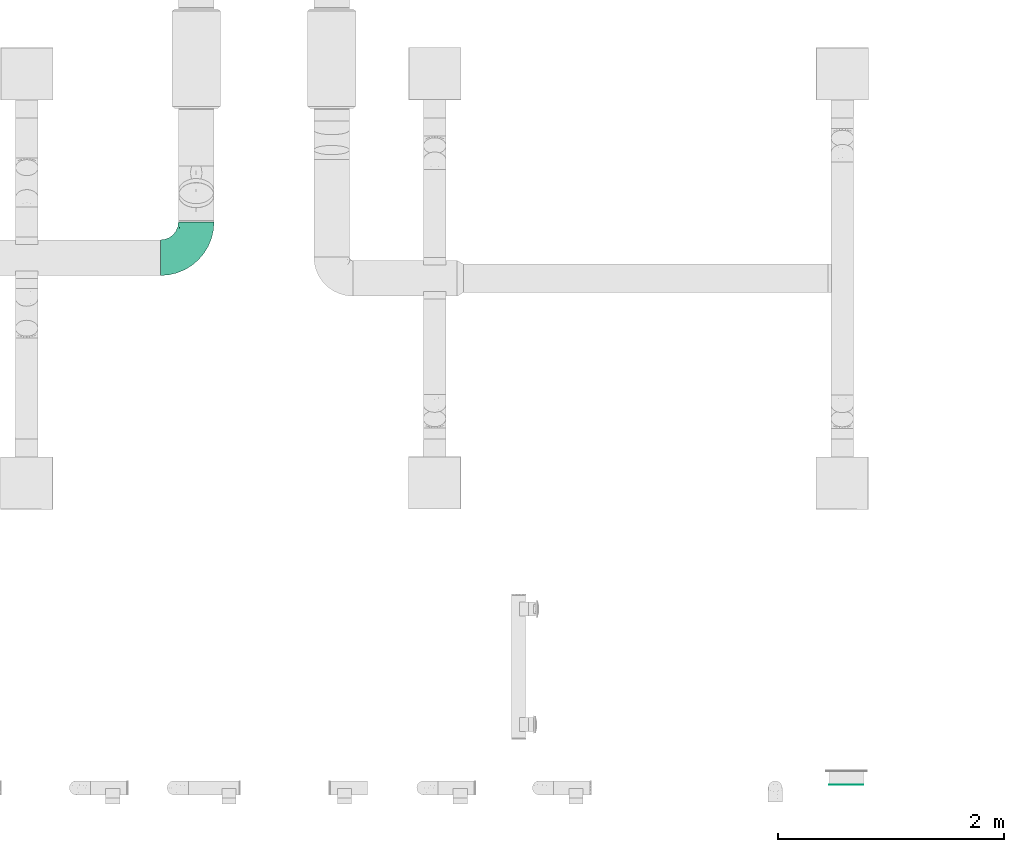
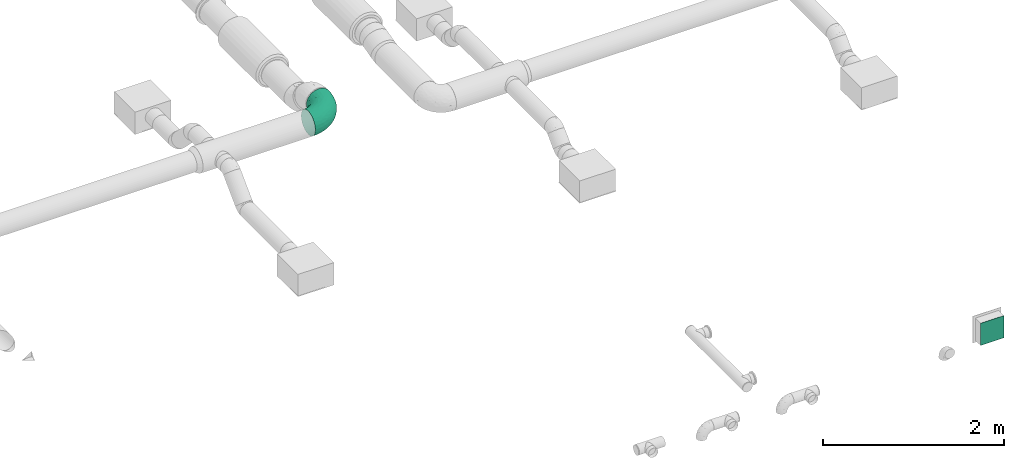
# One storey, part 54 of 63: 2 flow fittings.
"""IFC2X3 building model written with IfcOpenShell, lengths in millimetres."""

import ifcopenshell
import ifcopenshell.guid

model = None  # the IFC model being written
_history = None  # IfcOwnerHistory: only IFC2X3 demands one
_inside = {}  # id of a spatial element -> (the spatial element, [elements in it])
_under = {}  # id of a project, library or spatial element -> (it, [spatial elements below it])
_declared = {}  # id of a project -> (the project, [libraries it declares])
_typed = {}  # id of a type object -> (the type object, [elements of that type])
_made_of = {}  # id of a material, layer set ... -> (it, [elements and type objects made of it])


def new_model(schema):
    """Start an empty IFC model of exactly this schema.

    Asked for "IFC4X3", IfcOpenShell would pick the latest addendum, in which some entities
    have other attributes; the version numbers below select the first issue.
    IFC2X3 requires an IfcOwnerHistory on every rooted entity: one is made here for all.
    """
    global model, _history
    if schema == "IFC4X3":
        model = ifcopenshell.file(schema_version=(4, 3, 0, 0))
    else:
        model = ifcopenshell.file(schema=schema)
    _inside.clear()
    _under.clear()
    _declared.clear()
    _typed.clear()
    _made_of.clear()
    _history = None
    if model.schema == "IFC2X3":
        org = make("IfcOrganization", Name="unknown")
        user = make(
            "IfcPersonAndOrganization",
            ThePerson=make("IfcPerson", FamilyName="unknown"),
            TheOrganization=org,
        )
        app = make(
            "IfcApplication",
            ApplicationDeveloper=org,
            Version="unknown",
            ApplicationFullName="unknown",
            ApplicationIdentifier="unknown",
        )
        _history = make(
            "IfcOwnerHistory",
            OwningUser=user,
            OwningApplication=app,
            ChangeAction="ADDED",
            CreationDate=0,
        )
    return model


def make(cls, **values):
    """One entity of the class cls with the attributes given. An attribute that is None is left unset."""
    return model.create_entity(
        cls, **{name: value for name, value in values.items() if value is not None}
    )


def entity(cls, *values):
    """Any entity or typed value of the class cls, its attributes in the order of the schema. None: left unset."""
    e = model.create_entity(cls)
    for i, value in enumerate(values):
        if value is not None:
            e[i] = value
    return e


def rooted(cls, **values):
    """An entity with a GlobalId (a new one), such as an element, a storey or a relation."""
    return make(cls, GlobalId=ifcopenshell.guid.new(), OwnerHistory=_history, **values)


def si_unit(unit_type, name, prefix=None):
    """IfcSIUnit, for example si_unit("LENGTHUNIT", "METRE", prefix="MILLI")."""
    return make("IfcSIUnit", UnitType=unit_type, Prefix=prefix, Name=name)


def converted_unit(unit_type, name, factor, base, dimensions=None, offset=None):
    """IfcConversionBasedUnit, such as the inch: factor (a typed value) times the base unit."""
    return make(
        "IfcConversionBasedUnit"
        if offset is None
        else "IfcConversionBasedUnitWithOffset",
        ConversionOffset=offset,
        Dimensions=None
        if dimensions is None
        else entity("IfcDimensionalExponents", *dimensions),
        UnitType=unit_type,
        Name=name,
        ConversionFactor=make(
            "IfcMeasureWithUnit", ValueComponent=factor, UnitComponent=base
        ),
    )


def derived_unit(unit_type, elements):
    """IfcDerivedUnit: a product of units, each with its exponent."""
    return make(
        "IfcDerivedUnit",
        Elements=[
            make("IfcDerivedUnitElement", Unit=unit, Exponent=power)
            for unit, power in elements
        ],
        UnitType=unit_type,
    )


def assignment(units):
    """IfcUnitAssignment: the units of a project."""
    return None if units is None else make("IfcUnitAssignment", Units=units)


def point(xyz):
    """IfcCartesianPoint."""
    return None if xyz is None else make("IfcCartesianPoint", Coordinates=xyz)


def direction(xyz):
    """IfcDirection."""
    return None if xyz is None else make("IfcDirection", DirectionRatios=xyz)


def frame(location, z_axis=None, x_axis=None):
    """IfcAxis2Placement3D, a coordinate frame: its origin and axes. An axis left out is left unset."""
    return make(
        "IfcAxis2Placement3D",
        Location=point(location),
        Axis=direction(z_axis),
        RefDirection=direction(x_axis),
    )


def origin_with_axes():
    """The frame at (0, 0, 0) with the z axis (0, 0, 1) and the x axis (1, 0, 0) written out."""
    return frame((0.0, 0.0, 0.0), z_axis=(0.0, 0.0, 1.0), x_axis=(1.0, 0.0, 0.0))


def place(relative_to, where):
    """IfcLocalPlacement: puts the frame where relative to a parent placement (None: the world)."""
    return make(
        "IfcLocalPlacement", PlacementRelTo=relative_to, RelativePlacement=where
    )


def context(
    kind, dimensions, precision=None, world=None, true_north=None, identifier=None
):
    """IfcGeometricRepresentationContext, for example the 3D "Model" context."""
    return make(
        "IfcGeometricRepresentationContext",
        ContextIdentifier=identifier,
        ContextType=kind,
        CoordinateSpaceDimension=dimensions,
        Precision=precision,
        WorldCoordinateSystem=world,
        TrueNorth=true_north,
    )


def subcontext(parent, identifier, kind, view, scale=None):
    """IfcGeometricRepresentationSubContext, for example "Body" below "Model"."""
    return make(
        "IfcGeometricRepresentationSubContext",
        ContextIdentifier=identifier,
        ContextType=kind,
        ParentContext=parent,
        TargetScale=scale,
        TargetView=view,
    )


def project(units=None, contexts=None):
    """IfcProject with its units and contexts."""
    return rooted(
        "IfcProject",
        Name="project",
        RepresentationContexts=contexts,
        UnitsInContext=assignment(units),
    )


def spatial(cls, under=None, at=None, **own):
    """A site, building, storey or space (cls), placed at a placement, below another one or the project."""
    s = rooted(cls, ObjectPlacement=at, **own)
    if under is not None:
        _under.setdefault(under.id(), (under, []))[1].append(s)
    return s


def faces_of(points, faces, orient=None, outer=None):
    """IfcFace entities. A face is a list of loops; a loop is a list of indices into points, from 0.

    orient and outer hold one flag for each loop. By default every Orientation is true, the
    first loop of a face is its IfcFaceOuterBound and the others are IfcFaceBound.
    """
    made = []
    for i, loops in enumerate(faces):
        bounds = []
        for j, loop in enumerate(loops):
            is_outer = j == 0 if outer is None else outer[i][j]
            bounds.append(
                make(
                    "IfcFaceOuterBound" if is_outer else "IfcFaceBound",
                    Bound=make("IfcPolyLoop", Polygon=[points[k] for k in loop]),
                    Orientation=True if orient is None else orient[i][j],
                )
            )
        made.append(make("IfcFace", Bounds=bounds))
    return made


def open_shell(faces, orient=None, outer=None):
    """The faces of one IfcOpenShell. surface_model builds it on its shared points."""
    return ("IfcOpenShell", faces, orient, outer)


def surface_model(cls, points, shells):
    """IfcFaceBasedSurfaceModel or IfcShellBasedSurfaceModel (cls): surfaces that need not close."""
    shared = [point(p) for p in points]
    made = [make(c, CfsFaces=faces_of(shared, fs, o, b)) for c, fs, o, b in shells]
    if cls == "IfcFaceBasedSurfaceModel":
        return make(cls, FbsmFaces=made)
    return make(cls, SbsmBoundary=made)


def shape(context_of_items, identifier, shape_type, items):
    """IfcShapeRepresentation: the items that make up one representation, for example the "Body"."""
    return make(
        "IfcShapeRepresentation",
        ContextOfItems=context_of_items,
        RepresentationIdentifier=identifier,
        RepresentationType=shape_type,
        Items=items,
    )


def source(mapping_origin, context_of_items, identifier, shape_type, items):
    """IfcRepresentationMap: a shape defined once, which mapped items show again and again."""
    return make(
        "IfcRepresentationMap",
        MappingOrigin=mapping_origin,
        MappedRepresentation=shape(context_of_items, identifier, shape_type, items),
    )


def transform(
    local_origin,
    x_axis=None,
    y_axis=None,
    z_axis=None,
    scale=None,
    scale2=None,
    scale3=None,
    uniform=True,
):
    """IfcCartesianTransformationOperator3D, or its non-uniform kind. x_axis, y_axis, z_axis: its Axis1, 2, 3."""
    if uniform:
        return make(
            "IfcCartesianTransformationOperator3D",
            Axis1=direction(x_axis),
            Axis2=direction(y_axis),
            LocalOrigin=point(local_origin),
            Scale=scale,
            Axis3=direction(z_axis),
        )
    return make(
        "IfcCartesianTransformationOperator3DnonUniform",
        Axis1=direction(x_axis),
        Axis2=direction(y_axis),
        LocalOrigin=point(local_origin),
        Scale=scale,
        Axis3=direction(z_axis),
        Scale2=scale2,
        Scale3=scale3,
    )


def mapped(mapping_source, mapping_target):
    """IfcMappedItem: shows the shape of a source again, moved by a transform."""
    return make(
        "IfcMappedItem", MappingSource=mapping_source, MappingTarget=mapping_target
    )


def made_of(thing, what):
    """Note that an element or type object is made of a material, layer set ...; save() writes the relation."""
    if what is not None:
        _made_of.setdefault(what.id(), (what, []))[1].append(thing)
    return thing


def type_object(cls, material=None, **own):
    """A type object (cls), such as IfcWallType, which elements share."""
    return made_of(rooted(cls, **own), material)


def element(
    cls,
    number,
    at=None,
    inside=None,
    cuts=None,
    type_object=None,
    material=None,
    context=None,
    identifier="Body",
    shape_type=None,
    held_by="IfcProductDefinitionShape",
    body=None,
    shapes=None,
    **own,
):
    """One element of the class cls, such as IfcWall. Its Tag is "e" and its number.

    at: its placement. inside: the storey or other place that contains it. cuts: it is an
    opening in that element (IfcRelVoidsElement). A single representation is given by context,
    identifier, shape_type and body (its items); several are given by shapes. held_by: the class
    of the entity that holds the representations. save() writes the other relations.
    """
    e = rooted(cls, Tag="e%d" % number, ObjectPlacement=at, **own)
    if body is not None:
        shapes = [shape(context, identifier, shape_type, body)]
    if shapes is not None:
        e.Representation = make(held_by, Representations=shapes)
    if inside is not None:
        _inside.setdefault(inside.id(), (inside, []))[1].append(e)
    if cuts is not None:
        rooted(
            "IfcRelVoidsElement", RelatingBuildingElement=cuts, RelatedOpeningElement=e
        )
    if type_object is not None:
        _typed.setdefault(type_object.id(), (type_object, []))[1].append(e)
    return made_of(e, material)


def aggregate(whole, parts):
    """IfcRelAggregates: a whole, such as a stair, and the parts it consists of."""
    return rooted("IfcRelAggregates", RelatingObject=whole, RelatedObjects=parts)


def save(model, path):
    """Write the relations noted so far, then the file.

    IfcRelAggregates (storeys below a building ...), IfcRelContainedInSpatialStructure (elements
    in a storey), IfcRelDefinesByType, IfcRelAssociatesMaterial and IfcRelDeclares: one each for
    every whole, place, type object, material and project.
    """
    for whole, parts in _under.values():
        aggregate(whole, parts)
    for where, things in _inside.values():
        rooted(
            "IfcRelContainedInSpatialStructure",
            RelatedElements=things,
            RelatingStructure=where,
        )
    for kind, things in _typed.values():
        rooted("IfcRelDefinesByType", RelatedObjects=things, RelatingType=kind)
    for what, things in _made_of.values():
        rooted("IfcRelAssociatesMaterial", RelatedObjects=things, RelatingMaterial=what)
    for by, libraries in _declared.values():
        rooted("IfcRelDeclares", RelatingContext=by, RelatedDefinitions=libraries)
    model.write(path)


model = new_model("IFC2X3")

# Units and contexts
model_context = context("Model", 3, precision=0.01, world=frame((0.0, 4.29681676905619e-09, 0.0)), true_north=direction((4.01073788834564e-13, 1.0)))
plan_context = context("Plan", 3, precision=0.01, world=frame((0.0, 4.29681676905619e-09, 0.0)), true_north=direction((4.01073788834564e-13, 1.0)))
body_context = subcontext(model_context, "Body", "Model", "MODEL_VIEW")
ifc_project = project(units=[converted_unit("PLANEANGLEUNIT", "DEGREE", entity("IfcPositiveLengthMeasure", 0.0174532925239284), si_unit("PLANEANGLEUNIT", "RADIAN"), dimensions=[0, 0, 0, 0, 0, 0, 0]), si_unit("AREAUNIT", "SQUARE_METRE"), si_unit("LENGTHUNIT", "METRE", prefix="MILLI"), si_unit("MASSUNIT", "GRAM", prefix="KILO"), si_unit("POWERUNIT", "WATT"), si_unit("PRESSUREUNIT", "PASCAL"), si_unit("FORCEUNIT", "NEWTON", prefix="KILO"), si_unit("ELECTRICVOLTAGEUNIT", "VOLT"), si_unit("ELECTRICCURRENTUNIT", "AMPERE"), si_unit("THERMODYNAMICTEMPERATUREUNIT", "DEGREE_CELSIUS"), si_unit("TIMEUNIT", "SECOND"), si_unit("VOLUMEUNIT", "CUBIC_METRE"), derived_unit("LINEARVELOCITYUNIT", [(si_unit("LENGTHUNIT", "METRE"), 1), (si_unit("TIMEUNIT", "SECOND"), -1)]), derived_unit("VOLUMETRICFLOWRATEUNIT", [(si_unit("VOLUMEUNIT", "CUBIC_METRE"), 1), (si_unit("TIMEUNIT", "SECOND"), -1)]), derived_unit("THERMALTRANSMITTANCEUNIT", [(si_unit("POWERUNIT", "WATT"), 1), (si_unit("THERMODYNAMICTEMPERATUREUNIT", "KELVIN"), -1), (si_unit("AREAUNIT", "SQUARE_METRE"), -1)]), derived_unit("SOUNDPRESSUREUNIT", [(si_unit("PRESSUREUNIT", "PASCAL"), 1)])], contexts=[model_context, plan_context])

# Site, building, storey
site_placement = place(None, frame((0.0, -4.29681676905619e-09, 0.0), z_axis=(0.0, 0.0, 1.0), x_axis=(1.0, 0.0, 0.0)))
site = spatial("IfcSite", under=ifc_project, at=site_placement, CompositionType="ELEMENT")
building_placement = place(site_placement, frame((0.0, 4.29681676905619e-09, 0.0), z_axis=(0.0, 0.0, 1.0), x_axis=(1.0, 0.0, 0.0)))
building = spatial("IfcBuilding", under=site, at=building_placement, Name="mc-building", CompositionType="ELEMENT")
storey_placement = place(building_placement, frame((0.0, 0.0, 210900.0), z_axis=(0.0, 0.0, 1.0), x_axis=(1.0, 0.0, 0.0)))
storey = spatial("IfcBuildingStorey", under=building, at=storey_placement, Name="Nivå F", CompositionType="ELEMENT", Elevation=210900.0)

# Flow fittings
duct_fitting_type_1 = type_object("IfcDuctFittingType", Name="LEPR", PredefinedType="OBSTRUCTION")
shared_shape_1 = source(origin_with_axes(), body_context, "Body", "SurfaceModel", [
    surface_model("IfcShellBasedSurfaceModel", [(0.0, 150.0, 150.0), (0.0, 150.0, -150.0), (0.0, -150.0, -150.0), (0.0, -150.0, 150.0), (0.8, -150.0, -150.0), (0.8, 150.0, -150.0), (0.8, 150.0, 150.0), (0.8, -150.0, 150.0)], [open_shell([[[0, 1, 2]], [[2, 3, 0]], [[4, 5, 6]], [[6, 7, 4]], [[1, 0, 6]], [[6, 5, 1]], [[2, 1, 5]], [[5, 4, 2]], [[3, 2, 4]], [[4, 7, 3]], [[0, 3, 7]], [[7, 6, 0]]])]),
])
flow_fitting_1_placement = place(storey_placement, frame((534141.14447, 440919.96689, 2163.0), z_axis=(0.0, 0.0, 1.0), x_axis=(0.0, -1.0, 0.0)))
element("IfcFlowFitting", 1, at=flow_fitting_1_placement, inside=storey, type_object=duct_fitting_type_1, Name="LEPR", context=body_context, shape_type="MappedRepresentation", body=[
    mapped(shared_shape_1, transform((0.0, 0.0, 0.0), scale=1.0)),
])
duct_fitting_type_2 = type_object("IfcDuctFittingType", Name="magicirc_elbow_full_radius_001", PredefinedType="BEND")
shared_shape_2 = source(origin_with_axes(), body_context, "Body", "SurfaceModel", [
    surface_model("IfcShellBasedSurfaceModel", [(-314.99563, 78.75, -136.39901), (-314.99563, 40.764, -152.13332), (-314.99563, 0.0, -157.5), (-314.99563, 136.39901, -78.75), (-314.99563, -40.764, -152.13332), (-314.99563, 111.36932, -111.36932), (-314.99563, -157.5, 0.0), (-314.99563, -152.13332, 40.764), (-314.99563, -111.36932, -111.36932), (-314.99563, -152.13332, -40.764), (-314.99563, -78.75, -136.39901), (-314.99563, -136.39901, -78.75), (-314.99563, 152.13332, -40.764), (-314.99563, 152.13332, 40.764), (-314.99563, 157.5, 0.0), (-314.99563, 111.36932, 111.36932), (-314.99563, 136.39901, 78.75), (-314.99563, 78.75, 136.39901), (-314.99563, 40.764, 152.13332), (-314.99563, -111.36932, 111.36932), (-314.99563, -78.75, 136.39901), (-314.99563, -136.39901, 78.75), (-314.99563, 0.0, 157.5), (-314.99563, -40.764, 152.13332), (0.00438, 314.99563, -157.5), (-40.75962, 314.99618, -152.13332), (-78.74562, 314.99672, -136.39901), (78.75438, 314.99451, -136.39901), (-136.39462, 314.99752, -78.75), (-111.36493, 314.99716, -111.36932), (78.75438, 314.99451, 136.39901), (136.40338, 314.99371, -78.75), (111.3737, 314.99407, -111.36932), (40.76838, 314.99505, -152.13332), (152.1377, 314.99349, -40.764), (152.1377, 314.99349, 40.764), (157.50438, 314.99342, 0.0), (-152.12893, 314.99774, -40.764), (-157.49562, 314.99782, 0.0), (-152.12893, 314.99774, 40.764), (-136.39462, 314.99752, 78.75), (-111.36493, 314.99716, 111.36932), (-78.74562, 314.99672, 136.39901), (0.00438, 314.99563, 157.5), (-40.75962, 314.99618, 152.13332), (136.40338, 314.99371, 78.75), (111.3737, 314.99407, 111.36932), (40.76838, 314.99505, 152.13332), (-275.78233, -154.41387, 0.0), (-241.08098, -151.68285, 0.0), (-252.44546, -146.30355, 46.35177), (-187.41171, 212.23378, 44.1848), (-179.00813, 203.81647, 73.40966), (-160.11386, 234.11998, 71.62446), (-259.10337, -29.2916, 153.83071), (-244.91312, 10.98611, 157.47118), (-224.66694, -127.46544, 78.41554), (-275.62044, -128.51881, 88.53103), (-239.5808, -68.78702, 137.88046), (-254.44515, -102.1727, 115.994), (-204.97059, -89.72219, 117.91777), (-198.20126, -136.56001, 43.33951), (-148.93786, -119.38309, 47.89275), (-158.86409, -110.34395, 75.73764), (39.78896, 15.52692, 50.21588), (50.02589, 48.94828, 78.24311), (16.56828, 9.91774, 80.17533), (-156.73513, -92.787, 99.09335), (-102.51115, -78.92364, 85.02644), (-126.30359, -72.3811, 106.65392), (-238.05391, 163.98714, 60.26122), (-237.19628, 147.20553, 88.84877), (-203.90143, 171.05845, 84.09055), (-99.39287, -101.96312, 31.06085), (-68.87804, -86.63178, 0.0), (-64.7561, -82.94568, 27.47128), (-194.76046, -28.32928, 149.75765), (24.59647, -9.69228, 28.8341), (43.1863, 9.079, 0.0), (-28.14284, 147.05471, 156.53585), (-57.61978, 187.51977, 155.03014), (-72.60649, 106.84282, 157.43563), (-100.48686, -106.00148, 0.0), (-134.7366, -120.18804, 0.0), (-260.03918, 89.83532, 133.71514), (-237.2656, 125.02181, 112.97987), (-280.20779, 121.62899, 103.72148), (68.22275, 256.18487, 139.71457), (77.7747, 189.03714, 123.71331), (102.3214, 243.41465, 114.24986), (67.84636, 49.60643, 45.33454), (67.26259, 37.26828, 0.0), (90.55473, 77.98579, 29.40573), (-274.83279, 157.26135, 40.40681), (-274.66734, 145.30131, 71.02721), (-245.58014, 170.09692, 31.44898), (-158.00722, 282.5734, 29.5785), (-146.24753, 266.66926, 73.17896), (-201.20749, 99.95038, 140.23238), (-167.99712, 243.85419, 42.38531), (-236.24624, 178.60064, 0.0), (-214.35748, 188.34408, 36.4284), (-203.62707, 203.6299, 0.0), (-162.86277, 274.23424, 0.0), (-27.47562, -1.48475, 110.13853), (-51.95992, -33.03115, 100.52291), (-24.9943, -31.3227, 78.21223), (112.08976, 138.61476, 56.34781), (125.16464, 203.63833, 74.00772), (104.10219, 190.15963, 99.24642), (-263.8824, 52.4619, 150.15626), (6.28169, -18.0264, 54.58916), (-32.47606, -55.63937, 44.65376), (-205.03367, -143.02872, 0.0), (-151.50541, 215.66251, 97.49564), (-169.72027, 180.80581, 105.18269), (-137.79676, 192.65699, 121.95184), (-131.15677, 105.9116, 153.1919), (-137.51805, 135.51369, 144.53179), (-172.83467, 124.27249, 137.32697), (128.84852, 263.56769, 86.20483), (114.57882, 123.92499, 27.0886), (106.00288, 100.48539, 0.0), (131.76126, 176.4746, 38.42717), (143.03158, 205.03167, 0.0), (146.29989, 252.33171, 46.32604), (28.40514, 269.10054, 154.3271), (154.41772, 275.78019, 0.0), (-22.22204, 41.6886, 132.26014), (16.69612, 39.94144, 106.64404), (16.3236, 90.96451, 132.62288), (-52.02862, 254.37626, 150.89414), (153.89386, 314.99349, 27.42463), (53.20954, 125.90917, 122.55993), (88.9289, 138.614, 94.82267), (-274.23197, 162.86658, 0.0), (-178.59735, 236.24873, 0.0), (-168.81074, 14.50655, 156.32961), (-134.5812, -17.78299, 144.11347), (-96.05813, 24.61844, 149.79181), (-95.47704, 208.90642, 140.4938), (-78.66664, 72.23275, 155.69097), (-107.1022, 82.90157, 157.46312), (-89.91106, 266.26291, 132.78652), (-121.59915, 277.7357, 104.26581), (-11.77736, 260.70269, 157.34621), (-227.60144, 69.76338, 147.71228), (-195.76169, -66.84684, 132.57528), (-17.98734, 203.53736, 157.48414), (-60.53701, -60.45396, 74.88611), (-91.07062, -51.75683, 107.92245), (-197.57355, -110.08577, 94.49266), (-125.80686, 232.97065, 113.88708), (64.56688, 93.01054, 96.19285), (16.8365, 141.99468, 145.94109), (-22.72285, 90.9272, 148.21345), (-99.35187, 153.78898, 150.7065), (57.70169, 213.44689, 140.44451), (29.76674, 212.9311, 151.06681), (41.25791, 174.00604, 141.99739), (81.24605, 84.85904, 65.51466), (-80.64312, -84.21289, 54.10036), (-119.42605, -101.753, 60.63808), (-223.54222, 37.74256, 155.80435), (-168.22004, 88.17607, 150.98535), (-187.51897, 57.62239, 155.03014), (-196.72415, 148.24739, 112.17004), (-145.12494, 64.74935, 156.99992), (-62.10374, 49.4574, 148.77366), (-78.28995, 3.48969, 137.81802), (120.18992, 134.73493, 0.0), (134.37696, 168.98447, 0.0), (-124.06774, 168.52589, 138.84163), (0.03826, 171.9576, 154.42155), (-155.23905, 155.24121, 129.8963), (-73.90251, -22.7781, 121.68595), (-153.67303, -57.07327, 128.87428), (-113.78272, -39.32073, 127.49902), (-115.01563, 47.08459, 156.31041), (86.63274, 68.87683, 0.0), (-9.0796, -43.18618, 0.0), (19.11001, -19.11028, 0.0), (-168.98634, -134.37461, 0.0), (-37.26921, -67.26207, 0.0), (-314.99563, -153.88948, 27.42463), (151.6862, 241.07887, 0.0), (-255.73107, 122.56566, -109.04468), (-214.2899, 93.8024, -140.10166), (-163.83922, 105.49851, -146.9551), (-183.82434, 59.98903, -154.94923), (-192.31595, 130.25654, -126.94011), (-214.66702, 186.05777, -42.62167), (-186.74174, 194.75813, -73.69407), (-239.00213, 164.73409, -57.54531), (84.54013, 80.13498, -52.60618), (-261.00529, 11.80373, -157.34285), (-250.438, -29.83387, -153.37154), (-268.19408, 89.96997, -132.49506), (18.83989, 119.2131, -140.07303), (49.91416, 115.17303, -120.81805), (12.07164, 71.63181, -127.34639), (-248.07588, 169.79981, -27.2722), (-275.80359, 156.39385, -42.62167), (-145.80861, -120.76254, -39.5478), (-91.06364, -97.14686, -32.77151), (29.83736, 250.43758, -153.37154), (-188.18922, 214.15183, -37.45822), (-263.66261, 144.09274, -78.48772), (-189.95276, 165.06371, -102.28653), (43.89571, 65.87633, -99.75525), (78.16526, 108.20788, -90.0355), (-249.48977, 51.93139, -151.25867), (-314.99563, -153.88948, -27.42463), (-247.57064, -102.29902, -114.91122), (-172.13179, -94.47147, -103.54558), (-203.64006, -125.16181, -74.00772), (-15.43648, -39.86437, -49.86826), (-49.56264, -70.6022, -36.8524), (-48.59708, -58.52164, -64.27448), (-252.33374, -146.29638, -46.32604), (-150.41972, 203.44618, -106.34148), (-263.56947, -128.84486, -86.20483), (-270.62703, -67.1349, -141.23695), (-215.38611, -68.32674, -135.04056), (-196.40251, -137.78019, -37.15951), (102.30247, 247.56923, -114.91122), (-84.30666, -81.65752, -64.10849), (94.47386, 172.13048, -103.54558), (68.32973, 215.38515, -135.04056), (-163.28638, 237.20186, -62.64422), (-225.79151, 144.12078, -99.31795), (-157.79457, 273.70769, -39.50062), (-170.19613, 243.41701, -35.38825), (128.36072, 166.2441, -38.79849), (111.3317, 119.83631, -33.59621), (107.99667, 139.72882, -66.29618), (-159.64047, 170.07794, -119.54503), (-180.81416, -30.01584, -147.5138), (-145.2506, 275.1525, -70.89758), (-89.88131, 264.92242, -132.98784), (-44.17066, 280.5907, -151.79733), (-59.75262, 314.99643, -144.26616), (9.31208, -25.05964, -28.44177), (53.01321, 25.90817, -37.46461), (-11.80009, 261.00545, -157.34285), (67.13867, 270.6261, -141.23695), (-92.62424, 92.62551, -157.49914), (-118.9588, 121.25657, -152.49769), (-64.39249, 156.50896, -156.41153), (-60.18181, 62.85585, -151.37992), (-107.20433, 12.13773, -148.5661), (-115.08271, 49.6144, -156.55175), (128.84853, 263.56769, -86.20483), (142.02372, 205.04599, -27.61515), (29.82185, 180.39934, -147.52601), (-13.41235, 195.22173, -157.21331), (146.29989, 252.33169, -46.32604), (-37.40663, -4.78447, -114.20524), (-6.41603, -12.60773, -81.03574), (-50.98413, -38.43212, -94.29511), (-120.9295, -103.51232, -58.2865), (-96.40741, 201.2145, -141.7902), (-123.08827, 250.64858, -110.13441), (-121.88939, 288.06438, -101.98249), (-63.34854, 202.24298, -152.53202), (-222.0809, -6.89847, -156.21988), (125.16464, 203.63832, -74.00772), (-51.90723, 246.85321, -151.45133), (-161.36639, -115.89725, -67.15598), (61.05571, 59.83023, -73.20871), (-114.28419, -21.13509, -137.67379), (-72.08772, 0.21751, -134.09749), (2.17308, 150.0993, -151.66457), (-117.4034, -78.70983, -95.14824), (15.79979, -8.50111, -54.7268), (67.75221, 163.86129, -124.46872), (-163.86224, -67.74993, -124.46872), (-128.02284, 185.93754, -130.7513), (-108.32077, 160.67213, -146.79947), (-225.7225, 27.09606, -156.91408), (-54.59372, 105.67693, -156.33713), (-32.5658, 145.0808, -156.82142), (-145.37694, -8.42181, -149.28515), (-136.98146, 81.16528, -156.07805), (-156.30963, 39.79975, -157.47731), (-31.52295, 31.52338, -132.01713), (-143.53651, 148.20866, -138.06124), (-187.31462, 14.48758, -157.07871), (-19.17394, 108.97108, -150.7854), (2.87484, 23.194, -105.99041), (32.99987, 23.19193, -73.77906), (-74.46747, -30.27662, -116.67623), (-115.17373, -49.91256, -120.81805), (153.89386, 314.99349, -27.42463)], [open_shell([[[0, 1, 2]], [[3, 0, 2]], [[4, 3, 2]], [[5, 0, 3]], [[3, 6, 7]], [[8, 9, 10]], [[4, 10, 6]], [[11, 9, 8]], [[6, 10, 9]], [[6, 3, 4]], [[7, 12, 3]], [[13, 14, 15]], [[16, 13, 15]], [[17, 15, 7]], [[7, 15, 14]], [[17, 7, 18]], [[19, 20, 21]], [[7, 21, 22]], [[23, 22, 20]], [[21, 20, 22]], [[22, 18, 7]], [[12, 7, 14]], [[24, 25, 26]], [[27, 24, 26]], [[27, 26, 28]], [[28, 26, 29]], [[27, 28, 30]], [[27, 31, 32]], [[27, 33, 24]], [[27, 34, 31]], [[34, 27, 30]], [[35, 36, 34]], [[28, 37, 38]], [[38, 39, 40]], [[38, 40, 41]], [[38, 42, 30]], [[42, 38, 41]], [[43, 42, 44]], [[45, 30, 46]], [[35, 34, 45]], [[30, 43, 47]], [[34, 30, 45]], [[42, 43, 30]], [[28, 38, 30]], [[48, 49, 50]], [[51, 52, 53]], [[22, 54, 55]], [[56, 57, 50]], [[58, 59, 60]], [[23, 20, 58]], [[61, 62, 63]], [[64, 65, 66]], [[67, 68, 69]], [[70, 71, 72]], [[20, 59, 58]], [[73, 74, 75]], [[76, 54, 58]], [[64, 77, 78]], [[79, 80, 81]], [[50, 61, 56]], [[82, 73, 83]], [[84, 85, 86]], [[87, 88, 89]], [[22, 55, 18]], [[90, 91, 92]], [[93, 94, 70]], [[70, 95, 93]], [[96, 97, 39]], [[85, 84, 98]], [[99, 51, 53]], [[71, 70, 94]], [[100, 101, 102]], [[96, 103, 99]], [[14, 13, 93]], [[94, 93, 13]], [[64, 90, 65]], [[104, 105, 106]], [[107, 108, 109]], [[17, 110, 84]], [[111, 106, 112]], [[113, 50, 49]], [[20, 19, 59]], [[114, 115, 116]], [[117, 118, 119]], [[89, 30, 87]], [[19, 21, 57]], [[120, 89, 108]], [[121, 92, 122]], [[123, 124, 125]], [[43, 126, 47]], [[125, 127, 35]], [[16, 15, 86]], [[128, 129, 130]], [[120, 45, 46]], [[45, 125, 35]], [[123, 108, 107]], [[44, 42, 131]], [[127, 36, 132]], [[133, 134, 88]], [[93, 95, 135]], [[21, 7, 50]], [[99, 103, 136]], [[137, 138, 139]], [[102, 101, 51]], [[103, 96, 38]], [[140, 80, 131]], [[72, 101, 70]], [[51, 136, 102]], [[141, 81, 142]], [[131, 143, 140]], [[39, 97, 40]], [[41, 40, 144]], [[89, 46, 30]], [[145, 44, 131]], [[16, 94, 13]], [[42, 143, 131]], [[145, 43, 44]], [[15, 17, 84]], [[137, 55, 76]], [[23, 54, 22]], [[146, 84, 110]], [[58, 60, 147]], [[30, 47, 87]], [[88, 134, 109]], [[42, 41, 143]], [[80, 79, 148]], [[149, 150, 68]], [[67, 151, 63]], [[17, 18, 110]], [[84, 146, 98]], [[120, 125, 45]], [[125, 108, 123]], [[50, 7, 48]], [[50, 113, 61]], [[53, 52, 114]], [[144, 97, 152]], [[153, 129, 65]], [[111, 64, 66]], [[57, 59, 19]], [[60, 151, 67]], [[130, 133, 154]], [[129, 128, 104]], [[155, 154, 79]], [[156, 81, 80]], [[126, 87, 47]], [[157, 158, 159]], [[157, 88, 87]], [[160, 153, 65]], [[58, 54, 23]], [[55, 54, 76]], [[161, 162, 73]], [[162, 67, 63]], [[144, 143, 41]], [[143, 152, 140]], [[148, 131, 80]], [[126, 145, 158]], [[18, 55, 110]], [[163, 110, 55]], [[164, 98, 165]], [[98, 119, 166]], [[167, 117, 164]], [[140, 156, 80]], [[138, 137, 76]], [[168, 169, 128]], [[107, 134, 160]], [[89, 109, 108]], [[121, 123, 107]], [[170, 171, 123]], [[89, 120, 46]], [[125, 120, 108]], [[86, 94, 16]], [[94, 86, 71]], [[145, 126, 43]], [[126, 158, 157]], [[116, 140, 152]], [[118, 156, 172]], [[140, 116, 172]], [[81, 156, 117]], [[117, 167, 142]], [[81, 155, 79]], [[155, 130, 154]], [[148, 158, 145]], [[159, 88, 157]], [[173, 158, 148]], [[148, 79, 173]], [[131, 148, 145]], [[95, 70, 101]], [[14, 93, 135]], [[101, 100, 95]], [[135, 95, 100]], [[97, 144, 40]], [[143, 144, 152]], [[166, 71, 85]], [[71, 166, 72]], [[98, 166, 85]], [[166, 115, 72]], [[115, 166, 174]], [[101, 72, 52]], [[116, 115, 174]], [[52, 72, 115]], [[116, 174, 172]], [[114, 116, 152]], [[97, 114, 152]], [[52, 115, 114]], [[118, 172, 174]], [[140, 172, 156]], [[119, 118, 174]], [[156, 118, 117]], [[166, 119, 174]], [[119, 98, 164]], [[128, 130, 155]], [[153, 130, 129]], [[168, 128, 155]], [[104, 106, 66]], [[128, 169, 104]], [[162, 68, 67]], [[175, 150, 105]], [[176, 138, 76]], [[141, 155, 81]], [[139, 169, 168]], [[176, 69, 177]], [[147, 76, 58]], [[177, 150, 175]], [[138, 169, 139]], [[167, 137, 178]], [[137, 165, 163]], [[121, 122, 170]], [[126, 157, 87]], [[92, 121, 107]], [[123, 121, 170]], [[92, 107, 160]], [[90, 92, 160]], [[92, 91, 179]], [[65, 90, 160]], [[114, 97, 53]], [[160, 134, 153]], [[66, 65, 129]], [[134, 133, 153]], [[153, 133, 130]], [[104, 66, 129]], [[111, 66, 106]], [[149, 112, 106]], [[77, 64, 111]], [[161, 73, 75]], [[180, 181, 77]], [[77, 111, 112]], [[91, 90, 78]], [[77, 181, 78]], [[90, 64, 78]], [[97, 99, 53]], [[84, 86, 15]], [[86, 85, 71]], [[62, 61, 182]], [[151, 59, 56]], [[176, 60, 67]], [[59, 151, 60]], [[56, 61, 63]], [[56, 63, 151]], [[162, 63, 62]], [[62, 182, 83]], [[162, 161, 68]], [[149, 68, 161]], [[68, 150, 69]], [[62, 73, 162]], [[73, 82, 74]], [[183, 112, 75]], [[112, 149, 161]], [[149, 106, 105]], [[183, 75, 74]], [[112, 161, 75]], [[177, 69, 150]], [[176, 67, 69]], [[60, 176, 147]], [[76, 147, 176]], [[7, 184, 48]], [[184, 6, 48]], [[127, 125, 185]], [[127, 132, 35]], [[97, 96, 99]], [[38, 96, 39]], [[50, 57, 21]], [[59, 57, 56]], [[136, 51, 99]], [[101, 52, 51]], [[124, 123, 171]], [[124, 185, 125]], [[158, 173, 159]], [[154, 133, 159]], [[88, 159, 133]], [[83, 73, 62]], [[137, 163, 55]], [[146, 163, 165]], [[163, 146, 110]], [[98, 146, 165]], [[167, 164, 165]], [[119, 164, 117]], [[137, 167, 165]], [[167, 178, 142]], [[178, 139, 141]], [[117, 142, 81]], [[178, 141, 142]], [[155, 141, 168]], [[88, 109, 89]], [[107, 109, 134]], [[79, 154, 173]], [[173, 154, 159]], [[175, 104, 169]], [[149, 105, 150]], [[104, 175, 105]], [[177, 169, 138]], [[169, 177, 175]], [[138, 176, 177]], [[141, 139, 168]], [[139, 178, 137]], [[112, 180, 77]], [[179, 122, 92]], [[112, 183, 180]], [[113, 182, 61]], [[186, 5, 3]], [[187, 188, 189]], [[188, 187, 190]], [[191, 192, 193]], [[91, 194, 179]], [[2, 195, 196]], [[0, 5, 197]], [[198, 199, 200]], [[201, 202, 135]], [[82, 203, 204]], [[100, 201, 135]], [[33, 205, 24]], [[191, 102, 206]], [[12, 202, 207]], [[192, 208, 193]], [[209, 199, 210]], [[0, 211, 1]], [[197, 186, 187]], [[9, 48, 212]], [[213, 214, 215]], [[48, 6, 212]], [[216, 217, 218]], [[9, 11, 219]], [[192, 220, 208]], [[8, 221, 11]], [[191, 193, 201]], [[222, 196, 223]], [[10, 4, 222]], [[10, 222, 213]], [[113, 219, 224]], [[203, 182, 224]], [[27, 32, 225]], [[226, 217, 204]], [[8, 10, 213]], [[227, 228, 225]], [[229, 220, 192]], [[136, 206, 102]], [[186, 230, 190]], [[231, 229, 232]], [[233, 234, 235]], [[38, 37, 231]], [[208, 220, 236]], [[237, 223, 196]], [[238, 231, 37]], [[4, 2, 196]], [[239, 26, 240]], [[29, 26, 239]], [[232, 103, 231]], [[240, 241, 25]], [[78, 242, 243]], [[211, 0, 197]], [[24, 244, 25]], [[238, 37, 28]], [[24, 205, 244]], [[33, 245, 205]], [[180, 216, 242]], [[246, 247, 248]], [[14, 135, 202]], [[228, 245, 225]], [[234, 179, 194]], [[234, 194, 235]], [[249, 250, 251]], [[31, 252, 32]], [[33, 27, 245]], [[233, 253, 171]], [[205, 254, 255]], [[127, 185, 256]], [[34, 127, 256]], [[238, 229, 231]], [[230, 186, 207]], [[257, 258, 259]], [[31, 34, 256]], [[204, 260, 226]], [[204, 74, 82]], [[239, 261, 262]], [[263, 28, 29]], [[12, 207, 3]], [[264, 255, 248]], [[189, 211, 187]], [[265, 196, 195]], [[252, 225, 32]], [[227, 225, 266]], [[254, 205, 228]], [[244, 255, 267]], [[2, 1, 195]], [[196, 265, 237]], [[214, 213, 223]], [[221, 213, 215]], [[221, 219, 11]], [[268, 224, 215]], [[253, 185, 124]], [[252, 256, 266]], [[269, 210, 194]], [[227, 235, 210]], [[270, 250, 271]], [[198, 272, 254]], [[226, 273, 259]], [[274, 216, 258]], [[239, 267, 264]], [[263, 239, 262]], [[235, 227, 266]], [[275, 228, 227]], [[223, 276, 214]], [[214, 276, 273]], [[100, 102, 191]], [[202, 201, 193]], [[191, 201, 100]], [[191, 206, 192]], [[206, 229, 192]], [[229, 238, 220]], [[261, 277, 262]], [[277, 261, 278]], [[248, 247, 278]], [[190, 187, 186]], [[202, 193, 207]], [[14, 202, 12]], [[230, 193, 208]], [[3, 207, 186]], [[255, 244, 205]], [[26, 241, 240]], [[1, 211, 195]], [[279, 195, 211]], [[186, 197, 5]], [[211, 197, 187]], [[275, 254, 228]], [[199, 209, 200]], [[246, 249, 251]], [[280, 248, 281]], [[270, 282, 250]], [[237, 270, 276]], [[283, 251, 284]], [[285, 257, 271]], [[193, 230, 207]], [[230, 208, 190]], [[236, 190, 208]], [[188, 190, 286]], [[286, 247, 188]], [[284, 287, 189]], [[283, 188, 247]], [[189, 287, 279]], [[278, 247, 286]], [[283, 247, 246]], [[248, 278, 264]], [[255, 272, 281]], [[251, 283, 246]], [[189, 188, 283]], [[280, 249, 246]], [[250, 282, 284]], [[288, 285, 249]], [[249, 285, 271]], [[213, 221, 8]], [[219, 221, 215]], [[256, 252, 31]], [[225, 252, 266]], [[250, 249, 271]], [[285, 200, 289]], [[263, 238, 28]], [[220, 238, 262]], [[235, 266, 233]], [[210, 235, 194]], [[209, 269, 290]], [[210, 199, 275]], [[289, 209, 290]], [[209, 289, 200]], [[258, 289, 290]], [[257, 285, 289]], [[285, 288, 200]], [[198, 200, 288]], [[274, 258, 290]], [[218, 258, 216]], [[232, 229, 206]], [[38, 231, 103]], [[253, 266, 256]], [[233, 170, 234]], [[272, 198, 288]], [[275, 198, 254]], [[281, 272, 288]], [[255, 254, 272]], [[280, 281, 288]], [[255, 281, 248]], [[249, 280, 288]], [[248, 280, 246]], [[203, 268, 260]], [[74, 204, 217]], [[277, 278, 286]], [[278, 261, 264]], [[236, 277, 286]], [[262, 277, 220]], [[258, 257, 289]], [[122, 179, 234]], [[170, 233, 171]], [[170, 122, 234]], [[291, 257, 259]], [[291, 271, 257]], [[271, 291, 270]], [[276, 270, 292]], [[282, 270, 237]], [[237, 287, 282]], [[282, 287, 284]], [[273, 291, 259]], [[291, 292, 270]], [[266, 253, 233]], [[185, 253, 256]], [[225, 245, 27]], [[205, 245, 228]], [[196, 222, 4]], [[213, 222, 223]], [[243, 274, 290]], [[242, 216, 274]], [[243, 290, 269]], [[78, 181, 242]], [[243, 242, 274]], [[183, 217, 180]], [[242, 181, 180]], [[206, 136, 232]], [[124, 171, 253]], [[103, 232, 136]], [[113, 49, 219]], [[215, 224, 219]], [[48, 219, 49]], [[9, 219, 48]], [[293, 36, 127]], [[127, 34, 293]], [[239, 263, 29]], [[238, 263, 262]], [[203, 260, 204]], [[182, 203, 83]], [[218, 217, 226]], [[180, 217, 216]], [[74, 217, 183]], [[203, 224, 268]], [[260, 268, 273]], [[215, 214, 268]], [[273, 268, 214]], [[226, 259, 218]], [[258, 218, 259]], [[240, 244, 267]], [[244, 240, 25]], [[240, 267, 239]], [[194, 91, 243]], [[210, 275, 227]], [[275, 199, 198]], [[237, 276, 223]], [[273, 276, 292]], [[273, 292, 291]], [[260, 273, 226]], [[277, 236, 220]], [[190, 236, 286]], [[189, 279, 211]], [[265, 279, 287]], [[279, 265, 195]], [[237, 265, 287]], [[239, 264, 261]], [[255, 264, 267]], [[283, 284, 189]], [[284, 251, 250]], [[210, 269, 209]], [[243, 269, 194]], [[203, 82, 83]], [[243, 91, 78]], [[224, 182, 113]]])]),
])
flow_fitting_2_placement = place(storey_placement, frame((528399.04309, 445574.88543, 4270.0), z_axis=(0.0, 0.0, 1.0), x_axis=(0.999999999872, 1.5999999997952e-05, 0.0)))
element("IfcFlowFitting", 2, at=flow_fitting_2_placement, inside=storey, type_object=duct_fitting_type_2, Name="magicirc_elbow_full_radius_001", context=body_context, shape_type="MappedRepresentation", body=[
    mapped(shared_shape_2, transform((0.0, 0.0, 0.0), scale=1.0)),
])

save(model, "model.ifc")
